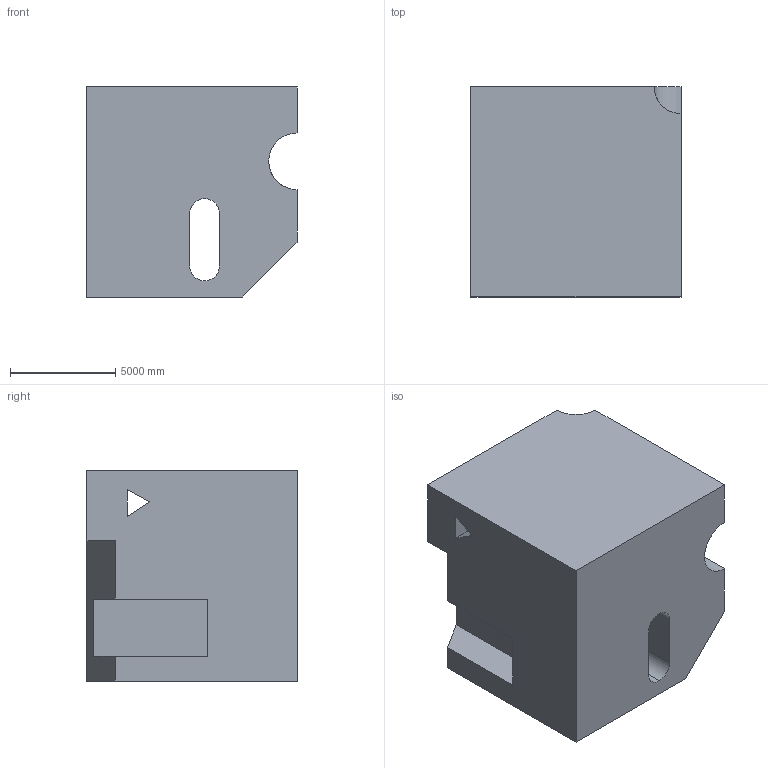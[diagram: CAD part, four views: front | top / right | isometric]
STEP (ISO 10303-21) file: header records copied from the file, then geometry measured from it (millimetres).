
FILE_DESCRIPTION (( 'STEP AP203' ), '1' );
FILE_NAME ('690.STEP', '2022-07-29T12:32:56', ( 'user' ), ( '' ), 'SwSTEP 2.0', 'SolidWorks 2021', '' );
FILE_SCHEMA (( 'CONFIG_CONTROL_DESIGN' ));
Length unit declared in the file: centimetre
Products named in the file (1): 690
Bounding box: 10000 x 10000 x 10000 mm (x, y, z)
Volume: 844873852684.2 mm3; surface area: 715931826.1 mm2
Topology: 1 solids, 1 shells, 24 faces, 66 edges, 44 vertices
Faces by surface type: plane 19, cylinder 5
Entity records: 937 total; most frequent: CARTESIAN_POINT 230, ORIENTED_EDGE 132, DIRECTION 124, EDGE_CURVE 66, LINE 56, VECTOR 56, VERTEX_POINT 44, AXIS2_PLACEMENT_3D 34
